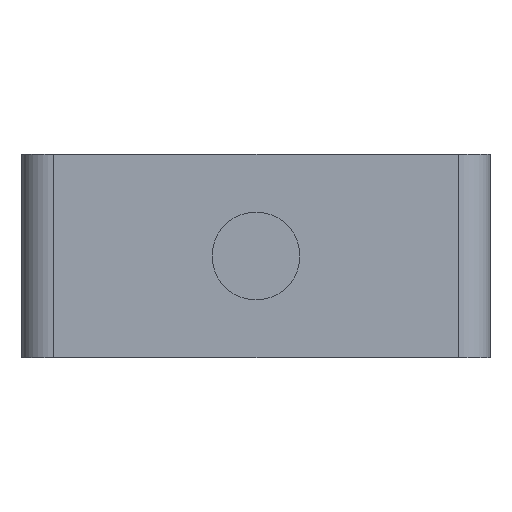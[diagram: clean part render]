
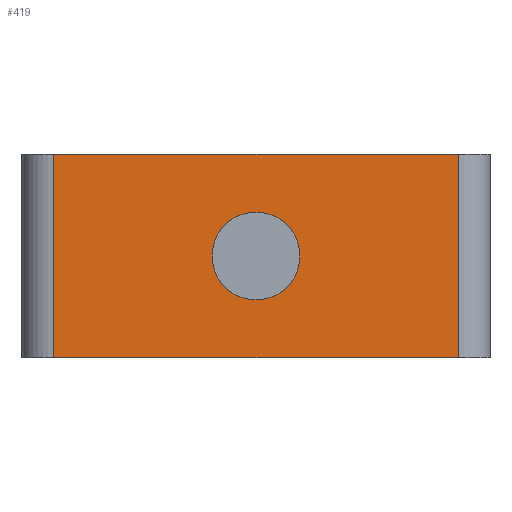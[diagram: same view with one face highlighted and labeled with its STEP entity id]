
A CAD part, left-side view. The second image highlights one B-rep face of the part: STEP entity #419.
In plain terms, the highlighted planar face has unit normal (-1, 0, 0).
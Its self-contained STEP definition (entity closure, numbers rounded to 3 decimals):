
#17=FACE_BOUND('',#80,.T.);
#33=PLANE('',#467);
#55=FACE_OUTER_BOUND('',#79,.T.);
#79=EDGE_LOOP('',(#387,#388,#389,#390));
#80=EDGE_LOOP('',(#391));
#81=LINE('',#589,#126);
#86=LINE('',#601,#131);
#93=LINE('',#617,#138);
#125=LINE('',#699,#170);
#126=VECTOR('',#474,10.);
#131=VECTOR('',#485,10.);
#138=VECTOR('',#496,10.);
#170=VECTOR('',#580,10.);
#177=CIRCLE('',#449,4.15);
#184=VERTEX_POINT('',#586);
#185=VERTEX_POINT('',#588);
#189=VERTEX_POINT('',#600);
#196=VERTEX_POINT('',#616);
#208=VERTEX_POINT('',#650);
#222=EDGE_CURVE('',#184,#185,#81,.T.);
#228=EDGE_CURVE('',#189,#185,#86,.T.);
#236=EDGE_CURVE('',#189,#196,#93,.T.);
#253=EDGE_CURVE('',#208,#208,#177,.T.);
#277=EDGE_CURVE('',#184,#196,#125,.T.);
#387=ORIENTED_EDGE('',*,*,#222,.F.);
#388=ORIENTED_EDGE('',*,*,#277,.T.);
#389=ORIENTED_EDGE('',*,*,#236,.F.);
#390=ORIENTED_EDGE('',*,*,#228,.T.);
#391=ORIENTED_EDGE('',*,*,#253,.T.);
#419=ADVANCED_FACE('',(#55,#17),#33,.F.);
#449=AXIS2_PLACEMENT_3D('',#651,#526,#527);
#467=AXIS2_PLACEMENT_3D('',#700,#581,#582);
#474=DIRECTION('',(0.,0.,1.));
#485=DIRECTION('',(0.,1.,0.));
#496=DIRECTION('',(0.,0.,-1.));
#526=DIRECTION('center_axis',(1.,0.,0.));
#527=DIRECTION('ref_axis',(0.,-1.,0.));
#580=DIRECTION('',(0.,-1.,0.));
#581=DIRECTION('center_axis',(1.,0.,0.));
#582=DIRECTION('ref_axis',(0.,1.,0.));
#586=CARTESIAN_POINT('',(4.,19.1,-9.6));
#588=CARTESIAN_POINT('',(4.,19.1,9.6));
#589=CARTESIAN_POINT('',(4.,19.1,-4.8));
#600=CARTESIAN_POINT('',(4.,-19.1,9.6));
#601=CARTESIAN_POINT('',(4.,-22.1,9.6));
#616=CARTESIAN_POINT('',(4.,-19.1,-9.6));
#617=CARTESIAN_POINT('',(4.,-19.1,4.8));
#650=CARTESIAN_POINT('',(4.,4.15,0.));
#651=CARTESIAN_POINT('Origin',(4.,0.,0.));
#699=CARTESIAN_POINT('',(4.,22.1,-9.6));
#700=CARTESIAN_POINT('Origin',(4.,0.,0.));
